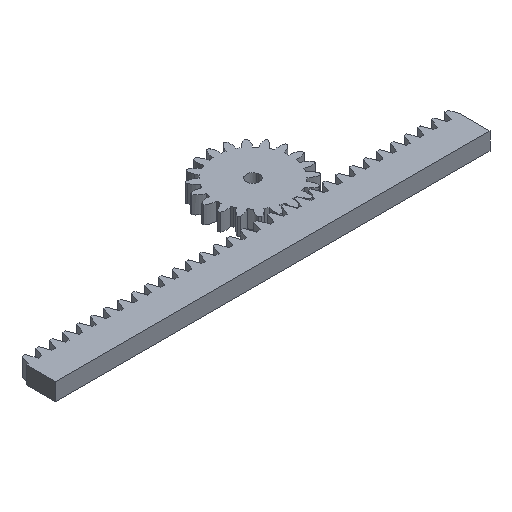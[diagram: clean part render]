
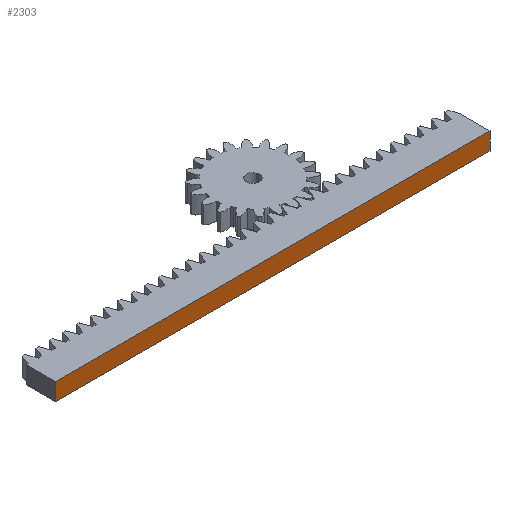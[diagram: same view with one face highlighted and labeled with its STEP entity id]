
A CAD part, isometric view. The second image highlights one B-rep face of the part: STEP entity #2303.
In plain terms, the highlighted planar face has unit normal (0, -1, 0).
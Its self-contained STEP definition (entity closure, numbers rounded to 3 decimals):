
#152=CARTESIAN_POINT('Vertex',(500.,0.,-20.)) ;
#155=CARTESIAN_POINT('Line Origine',(250.,0.,-20.)) ;
#159=CARTESIAN_POINT('Vertex',(0.,0.,-20.)) ;
#1207=CARTESIAN_POINT('Vertex',(500.,0.,0.)) ;
#2089=CARTESIAN_POINT('Vertex',(0.,0.,0.)) ;
#2092=CARTESIAN_POINT('Line Origine',(250.,0.,0.)) ;
#2275=CARTESIAN_POINT('Line Origine',(500.,0.,-10.)) ;
#2287=CARTESIAN_POINT('Axis2P3D Location',(0.,0.,-20.)) ;
#2292=CARTESIAN_POINT('Line Origine',(0.,0.,-10.)) ;
#156=DIRECTION('Vector Direction',(1.,0.,0.)) ;
#2093=DIRECTION('Vector Direction',(1.,0.,0.)) ;
#2276=DIRECTION('Vector Direction',(0.,0.,1.)) ;
#2288=DIRECTION('Axis2P3D Direction',(0.,-1.,0.)) ;
#2289=DIRECTION('Axis2P3D XDirection',(0.,-0.,-1.)) ;
#2293=DIRECTION('Vector Direction',(0.,0.,1.)) ;
#2290=AXIS2_PLACEMENT_3D('Plane Axis2P3D',#2287,#2288,#2289) ;
#2298=ORIENTED_EDGE('',*,*,#2096,.F.) ;
#2299=ORIENTED_EDGE('',*,*,#2296,.F.) ;
#2300=ORIENTED_EDGE('',*,*,#161,.T.) ;
#2301=ORIENTED_EDGE('',*,*,#2279,.T.) ;
#157=VECTOR('Line Direction',#156,1.) ;
#2094=VECTOR('Line Direction',#2093,1.) ;
#2277=VECTOR('Line Direction',#2276,1.) ;
#2294=VECTOR('Line Direction',#2293,1.) ;
#2303=ADVANCED_FACE('TeethCuts',(#2302),#2291,.T.) ;
#161=EDGE_CURVE('',#160,#153,#158,.T.) ;
#2096=EDGE_CURVE('',#2090,#1208,#2095,.T.) ;
#2279=EDGE_CURVE('',#153,#1208,#2278,.T.) ;
#2296=EDGE_CURVE('',#160,#2090,#2295,.T.) ;
#2297=EDGE_LOOP('',(#2298,#2299,#2300,#2301)) ;
#2302=FACE_OUTER_BOUND('',#2297,.T.) ;
#158=LINE('Line',#155,#157) ;
#2095=LINE('Line',#2092,#2094) ;
#2278=LINE('Line',#2275,#2277) ;
#2295=LINE('Line',#2292,#2294) ;
#2291=PLANE('',#2290) ;
#153=VERTEX_POINT('',#152) ;
#160=VERTEX_POINT('',#159) ;
#1208=VERTEX_POINT('',#1207) ;
#2090=VERTEX_POINT('',#2089) ;
